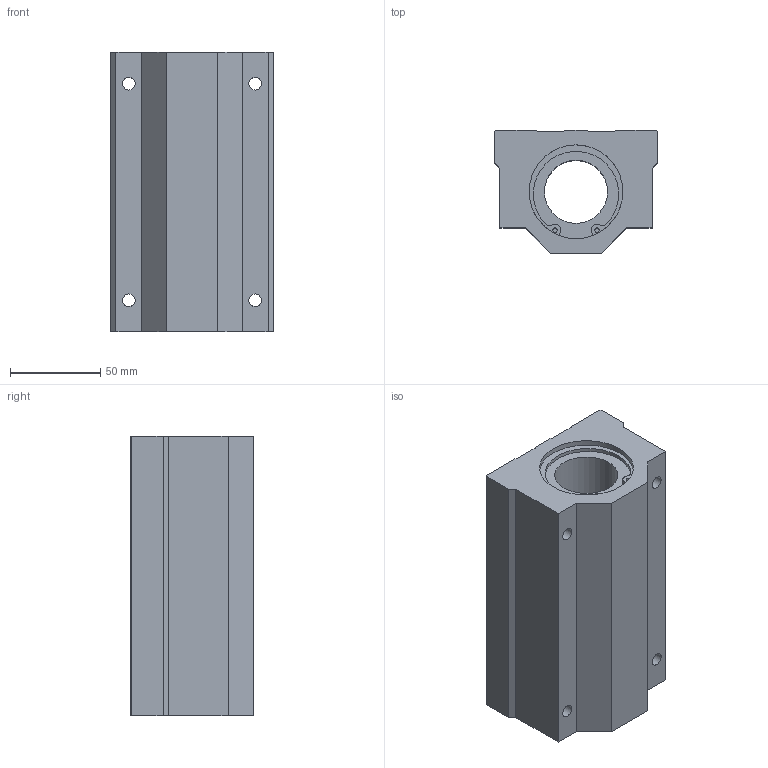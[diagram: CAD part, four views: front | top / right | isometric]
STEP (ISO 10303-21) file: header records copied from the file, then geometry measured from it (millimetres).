
FILE_DESCRIPTION(('STEP AP203'),'1');
FILE_NAME('//192.168.1.1/share/s-4 技術開発/s-4-4_CAD/s-4-4-3_見直し済み/008 修正済み/LC-L/LC-L_TOP/LC-35VLUU.step','2022-05-19T01:15:45',(' '),(' '),'Spatial InterOp 3D',' ',' ');
FILE_SCHEMA(('CONFIG_CONTROL_DESIGN'));
Length unit declared in the file: millimetre
Products named in the file (1): 1
Bounding box: 90 x 68 x 155 mm (x, y, z)
Volume: 644476.6 mm3; surface area: 76597.2 mm2
Topology: 1 solids, 1 shells, 65 faces, 175 edges, 118 vertices
Faces by surface type: plane 36, cylinder 29
Full cylindrical faces by diameter (mm): 2.5 x4, 7 x8, 35 x1, 52 x2
Entity records: 1956 total; most frequent: DIRECTION 338, CARTESIAN_POINT 324, ORIENTED_EDGE 300, EDGE_CURVE 150, AXIS2_PLACEMENT_3D 122, VERTEX_POINT 108, EDGE_LOOP 96, LINE 94
